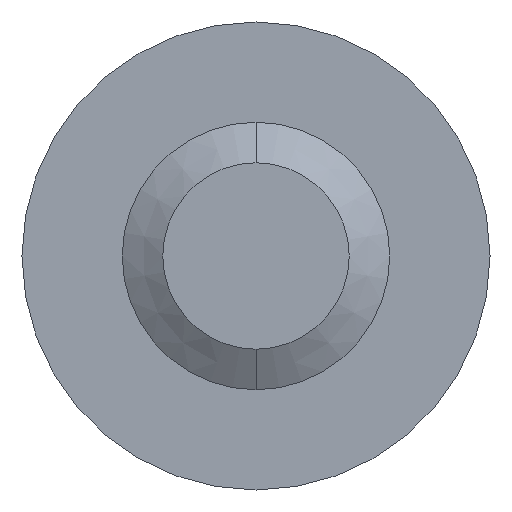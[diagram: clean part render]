
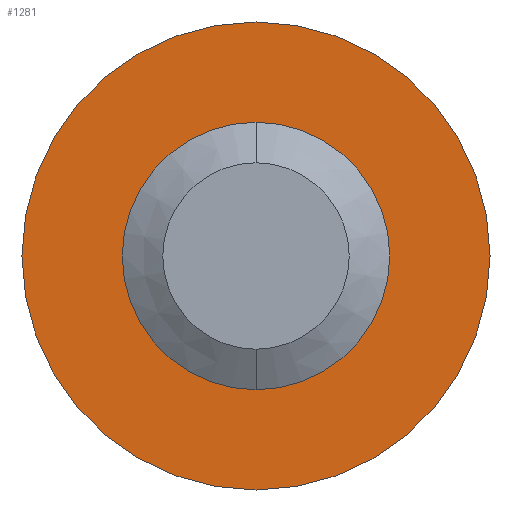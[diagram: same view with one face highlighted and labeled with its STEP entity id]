
A CAD part, front view. The second image highlights one B-rep face of the part: STEP entity #1281.
In plain terms, the highlighted planar face has unit normal (0, -1, 0).
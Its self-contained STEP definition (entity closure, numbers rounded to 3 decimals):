
#16 = CARTESIAN_POINT ( 'NONE',  ( 0., 6., 2. ) ) ;
#17 = CARTESIAN_POINT ( 'NONE',  ( 0., 6., 0. ) ) ;
#42 = AXIS2_PLACEMENT_3D ( 'NONE', #603, #353, #699 ) ;
#65 = EDGE_CURVE ( 'NONE', #1216, #451, #1409, .T. ) ;
#69 = AXIS2_PLACEMENT_3D ( 'NONE', #1224, #1374, #588 ) ;
#87 = PLANE ( 'NONE',  #42 ) ;
#121 = CIRCLE ( 'NONE', #1194, 2. ) ;
#130 = ORIENTED_EDGE ( 'NONE', *, *, #177, .T. ) ;
#165 = DIRECTION ( 'NONE',  ( 0., 1., 0. ) ) ;
#177 = EDGE_CURVE ( 'NONE', #882, #1057, #1059, .T. ) ;
#214 = FACE_OUTER_BOUND ( 'NONE', #288, .T. ) ;
#231 = ORIENTED_EDGE ( 'NONE', *, *, #65, .F. ) ;
#288 = EDGE_LOOP ( 'NONE', ( #1377, #231 ) ) ;
#353 = DIRECTION ( 'NONE',  ( 0., 1., 0. ) ) ;
#428 = DIRECTION ( 'NONE',  ( 0., 1., 0. ) ) ;
#436 = DIRECTION ( 'NONE',  ( 0., 0., 1. ) ) ;
#441 = CARTESIAN_POINT ( 'NONE',  ( 0., 6., 0. ) ) ;
#451 = VERTEX_POINT ( 'NONE', #991 ) ;
#468 = AXIS2_PLACEMENT_3D ( 'NONE', #441, #428, #436 ) ;
#588 = DIRECTION ( 'NONE',  ( 0., 0., 1. ) ) ;
#603 = CARTESIAN_POINT ( 'NONE',  ( 0., 6., 0. ) ) ;
#699 = DIRECTION ( 'NONE',  ( 0., 0., 1. ) ) ;
#707 = ORIENTED_EDGE ( 'NONE', *, *, #1379, .T. ) ;
#727 = FACE_BOUND ( 'NONE', #1500, .T. ) ;
#752 = CARTESIAN_POINT ( 'NONE',  ( 0., 6., 0. ) ) ;
#863 = DIRECTION ( 'NONE',  ( 0., 0., 1. ) ) ;
#882 = VERTEX_POINT ( 'NONE', #902 ) ;
#902 = CARTESIAN_POINT ( 'NONE',  ( 0., 6., -2. ) ) ;
#924 = AXIS2_PLACEMENT_3D ( 'NONE', #17, #165, #1456 ) ;
#991 = CARTESIAN_POINT ( 'NONE',  ( 0., 6., -3.5 ) ) ;
#1037 = CIRCLE ( 'NONE', #69, 3.5 ) ;
#1057 = VERTEX_POINT ( 'NONE', #16 ) ;
#1059 = CIRCLE ( 'NONE', #924, 2. ) ;
#1194 = AXIS2_PLACEMENT_3D ( 'NONE', #752, #1653, #863 ) ;
#1215 = CARTESIAN_POINT ( 'NONE',  ( 0., 6., 3.5 ) ) ;
#1216 = VERTEX_POINT ( 'NONE', #1215 ) ;
#1224 = CARTESIAN_POINT ( 'NONE',  ( 0., 6., 0. ) ) ;
#1226 = EDGE_CURVE ( 'NONE', #451, #1216, #1037, .T. ) ;
#1281 = ADVANCED_FACE ( 'NONE', ( #214, #727 ), #87, .F. ) ;
#1374 = DIRECTION ( 'NONE',  ( 0., 1., 0. ) ) ;
#1377 = ORIENTED_EDGE ( 'NONE', *, *, #1226, .F. ) ;
#1379 = EDGE_CURVE ( 'NONE', #1057, #882, #121, .T. ) ;
#1409 = CIRCLE ( 'NONE', #468, 3.5 ) ;
#1456 = DIRECTION ( 'NONE',  ( 0., 0., 1. ) ) ;
#1500 = EDGE_LOOP ( 'NONE', ( #130, #707 ) ) ;
#1653 = DIRECTION ( 'NONE',  ( 0., 1., 0. ) ) ;
